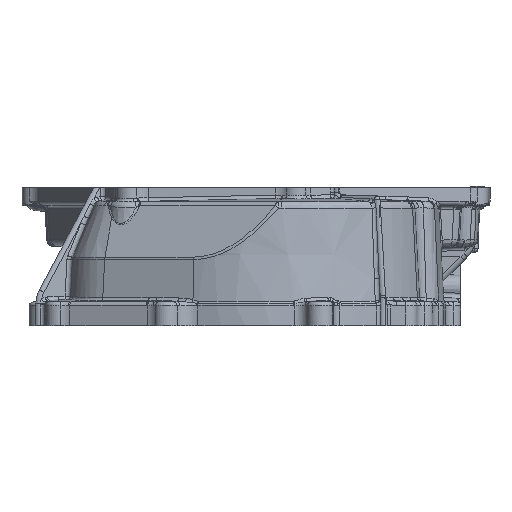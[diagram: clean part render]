
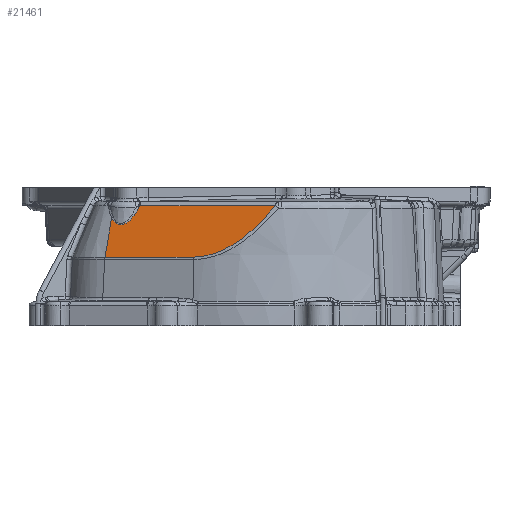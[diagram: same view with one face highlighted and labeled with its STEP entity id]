
A CAD part, left-side view. The second image highlights one B-rep face of the part: STEP entity #21461.
In plain terms, the highlighted planar face has unit normal (-0.843, 0.352, 0.407).
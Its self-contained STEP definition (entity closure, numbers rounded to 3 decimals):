
#16899=B_SPLINE_CURVE_WITH_KNOTS('',3,(#81843,#81937,#81938,#81939,#81940,#81941,#81942,#81943,#81944,#81945,#81946,#81947,#81948,#81949,#81950,#81951,#81952,#81953,#81954,#81955,#81956,#81957,#81936),.UNSPECIFIED.,.F.,.U.,(4,1,1,1,1,1,1,1,1,1,1,1,1,1,1,1,1,1,1,1,4),(0.,0.05,0.1,0.15,0.2,0.25,0.3,0.35,0.4,0.45,0.5,0.55,0.6,0.65,0.7,0.75,0.8,0.85,0.9,0.95,1.),.UNSPECIFIED.);
#16901=B_SPLINE_CURVE_WITH_KNOTS('',3,(#79667,#81992,#81993,#81994,#81995,#81996,#81997,#81998,#81999,#82000,#82001,#82002,#82003,#82004,#82005,#82006,#82007,#82008,#82009,#82010,#82011,#82012,#82013,#82014,#82015,#82016,#82017,#82018,#82019,#82020,#82021,#82022,#81991),.UNSPECIFIED.,.F.,.U.,(4,1,1,1,1,1,1,1,1,1,1,1,1,1,1,1,1,1,1,1,1,1,1,1,1,1,1,1,1,1,4),(0.,0.033,0.067,0.1,0.133,0.167,0.2,0.233,0.267,0.3,0.333,0.367,0.4,0.433,0.467,0.5,0.533,0.567,0.6,0.633,0.667,0.7,0.733,0.767,0.8,0.833,0.867,0.9,0.933,0.967,1.),.UNSPECIFIED.);
#16902=B_SPLINE_CURVE_WITH_KNOTS('',3,(#81100,#82023,#82024,#79667),.UNSPECIFIED.,.F.,.U.,(4,4),(0.,1.),.UNSPECIFIED.);
#18903=PLANE('',#126773);
#21461=ADVANCED_FACE('Body(1)',(#23594),#18903,.T.);
#23594=FACE_OUTER_BOUND('',#48071,.T.);
#30652=ORIENTED_EDGE('',*,*,#38315,.F.);
#30653=ORIENTED_EDGE('',*,*,#38316,.F.);
#30654=ORIENTED_EDGE('',*,*,#38311,.T.);
#30655=ORIENTED_EDGE('',*,*,#38312,.T.);
#30656=ORIENTED_EDGE('',*,*,#38317,.T.);
#38311=EDGE_CURVE('2288',#45443,#45477,#42957,.T.);
#38312=EDGE_CURVE('2289',#45477,#45478,#16899,.T.);
#38315=EDGE_CURVE('2292',#45377,#45480,#16901,.T.);
#38316=EDGE_CURVE('2293',#45443,#45377,#16902,.T.);
#38317=EDGE_CURVE('2294',#45478,#45480,#42958,.T.);
#41359=VECTOR('',#130456,82.082);
#41360=VECTOR('',#130019,124.809);
#42957=LINE('',#81100,#41359);
#42958=LINE('',#81936,#41360);
#45377=VERTEX_POINT('1211',#79667);
#45443=VERTEX_POINT('1277',#81100);
#45477=VERTEX_POINT('1311',#81843);
#45478=VERTEX_POINT('1312',#81936);
#45480=VERTEX_POINT('1314',#81991);
#48071=EDGE_LOOP('',(#30652,#30653,#30654,#30655,#30656));
#79667=CARTESIAN_POINT('',(-89.641,126.463,-25.756));
#81100=CARTESIAN_POINT('',(-103.305,132.178,-59.022));
#81843=CARTESIAN_POINT('',(-134.976,56.452,-59.022));
#81936=CARTESIAN_POINT('',(-142.802,-12.661,-15.342));
#81937=CARTESIAN_POINT('',(-135.396,55.449,-59.022));
#81938=CARTESIAN_POINT('',(-136.213,53.421,-58.957));
#81939=CARTESIAN_POINT('',(-137.362,50.337,-58.666));
#81940=CARTESIAN_POINT('',(-138.451,47.158,-58.166));
#81941=CARTESIAN_POINT('',(-139.463,43.916,-57.455));
#81942=CARTESIAN_POINT('',(-140.406,40.577,-56.514));
#81943=CARTESIAN_POINT('',(-141.257,37.201,-55.352));
#81944=CARTESIAN_POINT('',(-141.998,33.873,-54.003));
#81945=CARTESIAN_POINT('',(-142.632,30.613,-52.491));
#81946=CARTESIAN_POINT('',(-143.172,27.38,-50.81));
#81947=CARTESIAN_POINT('',(-143.634,24.088,-48.914));
#81948=CARTESIAN_POINT('',(-144.026,20.618,-46.719));
#81949=CARTESIAN_POINT('',(-144.336,16.901,-44.141));
#81950=CARTESIAN_POINT('',(-144.539,13.03,-41.207));
#81951=CARTESIAN_POINT('',(-144.62,9.197,-38.051));
#81952=CARTESIAN_POINT('',(-144.586,5.532,-34.805));
#81953=CARTESIAN_POINT('',(-144.454,2.045,-31.509));
#81954=CARTESIAN_POINT('',(-144.231,-1.37,-28.088));
#81955=CARTESIAN_POINT('',(-143.903,-4.91,-24.34));
#81956=CARTESIAN_POINT('',(-143.435,-8.724,-20.065));
#81957=CARTESIAN_POINT('',(-143.03,-11.333,-16.965));
#81990=CARTESIAN_POINT('',(-85.364,124.674,-15.342));
#81991=CARTESIAN_POINT('',(-94.645,102.483,-15.342));
#81992=CARTESIAN_POINT('',(-89.95,126.235,-26.198));
#81993=CARTESIAN_POINT('',(-90.539,125.769,-27.015));
#81994=CARTESIAN_POINT('',(-91.331,125.063,-28.044));
#81995=CARTESIAN_POINT('',(-92.045,124.35,-28.906));
#81996=CARTESIAN_POINT('',(-92.683,123.641,-29.614));
#81997=CARTESIAN_POINT('',(-93.248,122.947,-30.182));
#81998=CARTESIAN_POINT('',(-93.748,122.269,-30.632));
#81999=CARTESIAN_POINT('',(-94.196,121.603,-30.981));
#82000=CARTESIAN_POINT('',(-94.596,120.948,-31.243));
#82001=CARTESIAN_POINT('',(-94.957,120.298,-31.43));
#82002=CARTESIAN_POINT('',(-95.288,119.644,-31.547));
#82003=CARTESIAN_POINT('',(-95.591,118.981,-31.6));
#82004=CARTESIAN_POINT('',(-95.868,118.303,-31.587));
#82005=CARTESIAN_POINT('',(-96.124,117.6,-31.507));
#82006=CARTESIAN_POINT('',(-96.357,116.862,-31.353));
#82007=CARTESIAN_POINT('',(-96.568,116.084,-31.115));
#82008=CARTESIAN_POINT('',(-96.752,115.258,-30.781));
#82009=CARTESIAN_POINT('',(-96.907,114.369,-30.331));
#82010=CARTESIAN_POINT('',(-97.025,113.401,-29.737));
#82011=CARTESIAN_POINT('',(-97.094,112.363,-28.979));
#82012=CARTESIAN_POINT('',(-97.103,111.301,-28.077));
#82013=CARTESIAN_POINT('',(-97.051,110.249,-27.058));
#82014=CARTESIAN_POINT('',(-96.94,109.213,-25.931));
#82015=CARTESIAN_POINT('',(-96.778,108.219,-24.732));
#82016=CARTESIAN_POINT('',(-96.574,107.29,-23.507));
#82017=CARTESIAN_POINT('',(-96.339,106.425,-22.27));
#82018=CARTESIAN_POINT('',(-96.075,105.606,-21.012));
#82019=CARTESIAN_POINT('',(-95.777,104.809,-19.704));
#82020=CARTESIAN_POINT('',(-95.44,104.019,-18.321));
#82021=CARTESIAN_POINT('',(-95.061,103.236,-16.858));
#82022=CARTESIAN_POINT('',(-94.788,102.732,-15.854));
#82023=CARTESIAN_POINT('',(-98.75,130.273,-47.934));
#82024=CARTESIAN_POINT('',(-94.195,128.368,-36.845));
#126773=AXIS2_PLACEMENT_3D('',#81990,#130022,#130459);
#130019=DIRECTION('',(0.386,0.923,0.));
#130022=DIRECTION('',(-0.843,0.352,0.407));
#130456=DIRECTION('',(-0.386,-0.923,0.));
#130459=DIRECTION('',(-0.375,0.157,-0.914));
